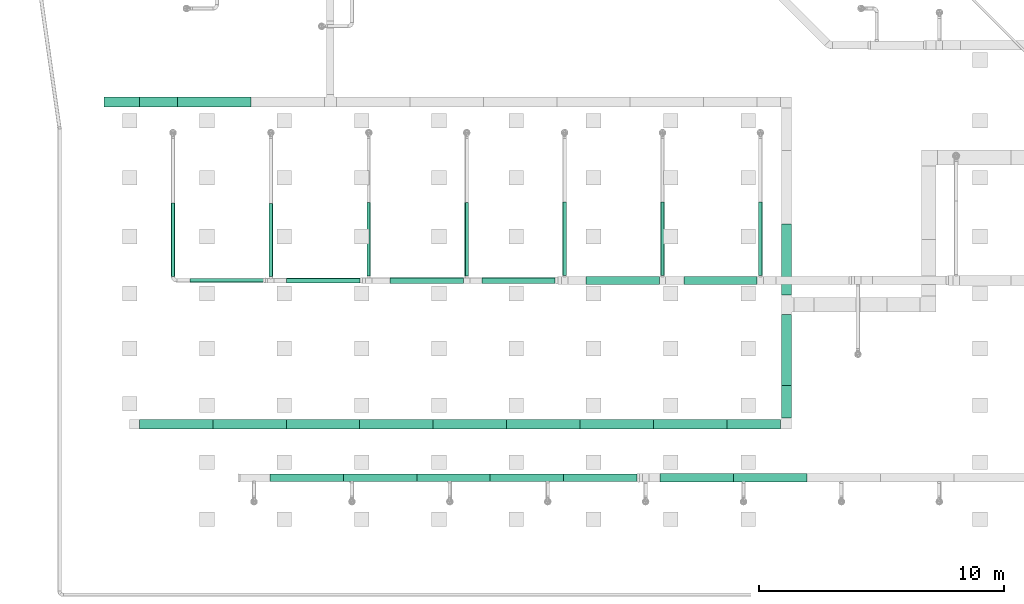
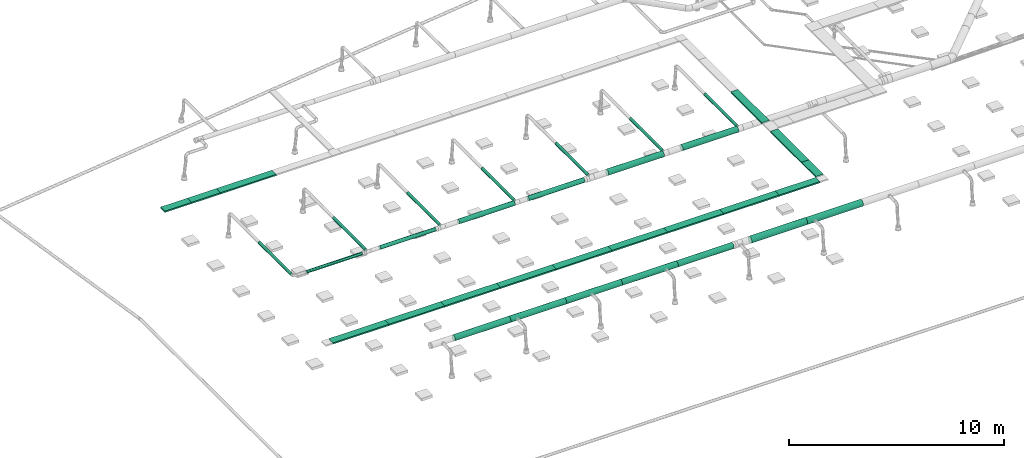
# One storey, part 2 of 374: 20 flow segments, 15 distribution elements.
"""IFC2X3 building model written with IfcOpenShell, lengths in metres."""

from ifc_helpers import new_model, si_unit, direction, frame, frame_2d, origin, place, context, subcontext, project, spatial, rectangle, extrude, open_shell, surface_model, source, transform, mapped, element, save


model = new_model("IFC2X3")

# Units and contexts
model_context = context("Model", 3, precision=1e-05, world=origin(), true_north=direction((-0.4480736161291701, 0.8939966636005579)))
body_context = subcontext(model_context, "Body", "Model", "MODEL_VIEW")
ifc_project = project(units=[si_unit("LENGTHUNIT", "METRE"), si_unit("AREAUNIT", "SQUARE_METRE"), si_unit("VOLUMEUNIT", "CUBIC_METRE"), si_unit("PLANEANGLEUNIT", "RADIAN"), si_unit("THERMODYNAMICTEMPERATUREUNIT", "KELVIN"), si_unit("MASSUNIT", "GRAM", prefix="KILO"), si_unit("TIMEUNIT", "SECOND")], contexts=[model_context])

# Site, building, storey
site_placement = place(None, origin())
site = spatial("IfcSite", under=ifc_project, at=site_placement, Name="Site 1", CompositionType="ELEMENT")
building_placement = place(site_placement, origin())
building = spatial("IfcBuilding", under=site, at=building_placement, Name="Undefined", CompositionType="ELEMENT")
storey_placement = place(building_placement, origin())
storey = spatial("IfcBuildingStorey", under=building, at=storey_placement, Name="Rez de chauss\x8ee", CompositionType="ELEMENT", Elevation=0.0)

# Flow segments
shared_shape_1 = source(origin(), body_context, "Body", "SurfaceModel", [
    surface_model("IfcFaceBasedSurfaceModel", [(0.0, 0.046336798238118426, 0.0), (0.0, 0.0, 0.0), (3.0, 0.0, 0.0), (3.0, 0.046336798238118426, 0.0), (0.0, -0.044757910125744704, -0.0119928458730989), (3.0, -0.044757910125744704, -0.0119928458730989), (0.0, -0.08488675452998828, -0.035161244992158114), (3.0, -0.08488675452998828, -0.035161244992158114), (0.0, -0.11765181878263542, -0.06792630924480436), (3.0, -0.11765181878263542, -0.06792630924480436), (0.0, -0.1408202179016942, -0.10805515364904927), (3.0, -0.1408202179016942, -0.10805515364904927), (0.0, -0.15281306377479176, -0.15281306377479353), (3.0, -0.15281306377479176, -0.15281306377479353), (0.0, -0.1528130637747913, -0.19914986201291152), (3.0, -0.1528130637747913, -0.19914986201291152), (0.0, -0.14082021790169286, -0.24390777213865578), (3.0, -0.14082021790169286, -0.24390777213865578), (0.0, -0.11765181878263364, -0.2840366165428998), (3.0, -0.11765181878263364, -0.2840366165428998), (0.0, -0.0848867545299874, -0.31680168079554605), (3.0, -0.0848867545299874, -0.31680168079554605), (0.0, -0.044757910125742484, -0.3399700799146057), (3.0, -0.044757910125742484, -0.3399700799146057), (0.0, 1.776356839e-15, -0.35196292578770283), (3.0, 1.776356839e-15, -0.35196292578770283), (0.0, 0.0463367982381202, -0.3519629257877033), (3.0, 0.0463367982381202, -0.3519629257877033), (0.0, 0.09109470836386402, -0.3399700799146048), (3.0, 0.09109470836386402, -0.3399700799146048), (0.0, 0.13122355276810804, -0.31680168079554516), (3.0, 0.13122355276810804, -0.31680168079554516), (0.0, 0.16398861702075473, -0.2840366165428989), (3.0, 0.16398861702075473, -0.2840366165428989), (0.0, 0.18715701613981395, -0.243907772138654), (3.0, 0.18715701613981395, -0.243907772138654), (0.0, 0.19914986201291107, -0.19914986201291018), (3.0, 0.19914986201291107, -0.19914986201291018), (0.0, 0.19914986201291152, -0.15281306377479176), (3.0, 0.19914986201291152, -0.15281306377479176), (0.0, 0.18715701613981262, -0.1080551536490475), (3.0, 0.18715701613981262, -0.1080551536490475), (0.0, 0.1639886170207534, -0.06792630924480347), (3.0, 0.1639886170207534, -0.06792630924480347), (0.0, 0.1312235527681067, -0.03516124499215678), (3.0, 0.1312235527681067, -0.03516124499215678), (0.0, 0.09109470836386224, -0.011992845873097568), (3.0, 0.09109470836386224, -0.011992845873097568)], [open_shell([[[0, 1, 2, 3]], [[1, 4, 5, 2]], [[4, 6, 7, 5]], [[6, 8, 9, 7]], [[8, 10, 11, 9]], [[10, 12, 13, 11]], [[12, 14, 15, 13]], [[14, 16, 17, 15]], [[16, 18, 19, 17]], [[18, 20, 21, 19]], [[20, 22, 23, 21]], [[22, 24, 25, 23]], [[24, 26, 27, 25]], [[26, 28, 29, 27]], [[28, 30, 31, 29]], [[30, 32, 33, 31]], [[32, 34, 35, 33]], [[34, 36, 37, 35]], [[36, 38, 39, 37]], [[38, 40, 41, 39]], [[40, 42, 43, 41]], [[42, 44, 45, 43]], [[44, 46, 47, 45]], [[46, 0, 3, 47]]])]),
])
flow_segment_1_placement = place(storey_placement, origin())
element("IfcFlowSegment", 1, at=flow_segment_1_placement, inside=storey, Name="Tube", ObjectType="Tube", context=body_context, shape_type="MappedRepresentation", body=[
    mapped(shared_shape_1, transform((28.88300102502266, 2.897238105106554, 3.9714518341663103), x_axis=(-1.0, 0.0, 0.0), y_axis=(7.266545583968e-12, -0.9914448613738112, 0.13052619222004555), z_axis=(0.0, 0.13052619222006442, 0.9914448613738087))),
])
flow_segment_2_placement = place(storey_placement, origin())
element("IfcFlowSegment", 2, at=flow_segment_2_placement, inside=storey, Name="Tube", ObjectType="Tube", context=body_context, shape_type="MappedRepresentation", body=[
    mapped(shared_shape_1, transform((25.88300102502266, 2.897238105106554, 3.9714518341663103), x_axis=(-1.0, 0.0, 0.0), y_axis=(7.266545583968e-12, -0.9914448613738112, 0.13052619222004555), z_axis=(0.0, 0.13052619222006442, 0.9914448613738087))),
])
shared_shape_2 = source(origin(), body_context, "Body", "SurfaceModel", [
    surface_model("IfcFaceBasedSurfaceModel", [(0.0, 0.04111575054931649, 0.0), (0.0, 0.0, 0.0), (3.0, 0.0, 0.0), (3.0, 0.04111575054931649, 0.0), (0.0, -0.03971476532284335, -0.010641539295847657), (3.0, -0.03971476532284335, -0.010641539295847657), (0.0, -0.0753220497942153, -0.0311994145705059), (3.0, -0.0753220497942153, -0.0311994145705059), (0.0, -0.10439527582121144, -0.060272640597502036), (3.0, -0.10439527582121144, -0.060272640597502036), (0.0, -0.12495315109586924, -0.09587992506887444), (3.0, -0.12495315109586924, -0.09587992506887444), (0.0, -0.13559469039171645, -0.13559469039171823), (3.0, -0.13559469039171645, -0.13559469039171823), (0.0, -0.135594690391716, -0.17671044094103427), (3.0, -0.135594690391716, -0.17671044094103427), (0.0, -0.1249531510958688, -0.21642520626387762), (3.0, -0.1249531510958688, -0.21642520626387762), (0.0, -0.10439527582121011, -0.2520324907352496), (3.0, -0.10439527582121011, -0.2520324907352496), (0.0, -0.07532204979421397, -0.2811057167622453), (3.0, -0.07532204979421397, -0.2811057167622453), (0.0, -0.039714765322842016, -0.3016635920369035), (3.0, -0.039714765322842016, -0.3016635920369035), (0.0, 1.776356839e-15, -0.3123051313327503), (3.0, 1.776356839e-15, -0.3123051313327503), (0.0, 0.041115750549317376, -0.31230513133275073), (3.0, 0.041115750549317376, -0.31230513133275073), (0.0, 0.08083051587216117, -0.30166359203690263), (3.0, 0.08083051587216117, -0.30166359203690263), (0.0, 0.11643780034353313, -0.28110571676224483), (3.0, 0.11643780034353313, -0.28110571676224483), (0.0, 0.14551102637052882, -0.25203249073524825), (3.0, 0.14551102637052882, -0.25203249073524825), (0.0, 0.16606890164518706, -0.2164252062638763), (3.0, 0.16606890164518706, -0.2164252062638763), (0.0, 0.17671044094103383, -0.1767104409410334), (3.0, 0.17671044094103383, -0.1767104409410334), (0.0, 0.17671044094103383, -0.1355946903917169), (3.0, 0.17671044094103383, -0.1355946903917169), (0.0, 0.16606890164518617, -0.09587992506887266), (3.0, 0.16606890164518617, -0.09587992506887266), (0.0, 0.14551102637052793, -0.06027264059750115), (3.0, 0.14551102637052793, -0.06027264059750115), (0.0, 0.1164378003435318, -0.031199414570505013), (3.0, 0.1164378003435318, -0.031199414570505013), (0.0, 0.08083051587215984, -0.010641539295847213), (3.0, 0.08083051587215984, -0.010641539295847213)], [open_shell([[[0, 1, 2, 3]], [[1, 4, 5, 2]], [[4, 6, 7, 5]], [[6, 8, 9, 7]], [[8, 10, 11, 9]], [[10, 12, 13, 11]], [[12, 14, 15, 13]], [[14, 16, 17, 15]], [[16, 18, 19, 17]], [[18, 20, 21, 19]], [[20, 22, 23, 21]], [[22, 24, 25, 23]], [[24, 26, 27, 25]], [[26, 28, 29, 27]], [[28, 30, 31, 29]], [[30, 32, 33, 31]], [[32, 34, 35, 33]], [[34, 36, 37, 35]], [[36, 38, 39, 37]], [[38, 40, 41, 39]], [[40, 42, 43, 41]], [[42, 44, 45, 43]], [[44, 46, 47, 45]], [[46, 0, 3, 47]]])]),
])
flow_segment_3_placement = place(storey_placement, origin())
element("IfcFlowSegment", 3, at=flow_segment_3_placement, inside=storey, Name="Tube", ObjectType="Tube", context=body_context, shape_type="MappedRepresentation", body=[
    mapped(shared_shape_2, transform((26.850053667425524, 10.95995797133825, 3.952133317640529), x_axis=(-1.0, 0.0, 0.0), y_axis=(7.266545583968e-12, -0.9914448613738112, 0.13052619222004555), z_axis=(0.0, 0.13052619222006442, 0.9914448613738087))),
])
flow_segment_4_placement = place(storey_placement, origin())
element("IfcFlowSegment", 4, at=flow_segment_4_placement, inside=storey, Name="Tube", ObjectType="Tube", context=body_context, shape_type="MappedRepresentation", body=[
    mapped(shared_shape_2, transform((22.85005357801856, 10.95995797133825, 3.952133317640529), x_axis=(-1.0, 0.0, 0.0), y_axis=(7.266545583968e-12, -0.9914448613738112, 0.13052619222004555), z_axis=(0.0, 0.13052619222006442, 0.9914448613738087))),
])
flow_segment_5_placement = place(storey_placement, origin())
element("IfcFlowSegment", 5, at=flow_segment_5_placement, inside=storey, Name="Tube", ObjectType="Tube", context=body_context, shape_type="MappedRepresentation", body=[
    mapped(shared_shape_2, transform((21.940000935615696, 2.892061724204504, 3.952133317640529), x_axis=(-1.0, 0.0, 0.0), y_axis=(7.266545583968e-12, -0.9914448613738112, 0.13052619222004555), z_axis=(0.0, 0.13052619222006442, 0.9914448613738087))),
])
flow_segment_6_placement = place(storey_placement, origin())
element("IfcFlowSegment", 6, at=flow_segment_6_placement, inside=storey, Name="Tube", ObjectType="Tube", context=body_context, shape_type="MappedRepresentation", body=[
    mapped(shared_shape_2, transform((18.940000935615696, 2.892061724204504, 3.952133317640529), x_axis=(-1.0, 0.0, 0.0), y_axis=(7.266545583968e-12, -0.9914448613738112, 0.13052619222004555), z_axis=(0.0, 0.13052619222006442, 0.9914448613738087))),
])
flow_segment_7_placement = place(storey_placement, origin())
element("IfcFlowSegment", 7, at=flow_segment_7_placement, inside=storey, Name="Tube", ObjectType="Tube", context=body_context, shape_type="MappedRepresentation", body=[
    mapped(shared_shape_2, transform((15.940000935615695, 2.892061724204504, 3.952133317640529), x_axis=(-1.0, 0.0, 0.0), y_axis=(7.266545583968e-12, -0.9914448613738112, 0.13052619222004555), z_axis=(0.0, 0.13052619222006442, 0.9914448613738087))),
])
flow_segment_8_placement = place(storey_placement, origin())
element("IfcFlowSegment", 8, at=flow_segment_8_placement, inside=storey, Name="Tube", ObjectType="Tube", context=body_context, shape_type="MappedRepresentation", body=[
    mapped(shared_shape_2, transform((12.940000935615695, 2.892061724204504, 3.952133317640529), x_axis=(-1.0, 0.0, 0.0), y_axis=(7.266545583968e-12, -0.9914448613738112, 0.13052619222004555), z_axis=(0.0, 0.13052619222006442, 0.9914448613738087))),
])
flow_segment_9_placement = place(storey_placement, origin())
element("IfcFlowSegment", 9, at=flow_segment_9_placement, inside=storey, Name="Tube", ObjectType="Tube", context=body_context, shape_type="MappedRepresentation", body=[
    mapped(shared_shape_2, transform((9.940000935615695, 2.892061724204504, 3.952133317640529), x_axis=(-1.0, 0.0, 0.0), y_axis=(7.266545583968e-12, -0.9914448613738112, 0.13052619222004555), z_axis=(0.0, 0.13052619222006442, 0.9914448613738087))),
])
shared_shape_3 = source(origin(), body_context, "Body", "SurfaceModel", [
    surface_model("IfcFaceBasedSurfaceModel", [(0.0, 0.02610523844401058, 0.0), (0.0, 0.0, 0.0), (3.0, 0.0, 0.0), (3.0, 0.026105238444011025, 0.0), (0.0, -0.025215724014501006, -0.006756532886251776), (3.0, -0.02521572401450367, -0.006756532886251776), (0.0, -0.04782352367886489, -0.019809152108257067), (3.0, -0.04782352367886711, -0.019809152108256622), (0.0, -0.066282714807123, -0.038268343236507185), (3.0, -0.06628271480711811, -0.03826834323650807), (0.0, -0.07933533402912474, -0.06087614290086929), (3.0, -0.0793353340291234, -0.060876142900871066), (0.0, -0.08609186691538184, -0.08609186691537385), (3.0, -0.08609186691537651, -0.08609186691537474), (0.0, -0.08609186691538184, -0.11219710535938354), (3.0, -0.08609186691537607, -0.11219710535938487), (0.0, -0.07933533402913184, -0.1374128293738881), (3.0, -0.0793353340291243, -0.137412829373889), (0.0, -0.066282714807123, -0.16002062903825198), (3.0, -0.06628271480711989, -0.16002062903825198), (0.0, -0.04782352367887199, -0.17847982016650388), (3.0, -0.04782352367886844, -0.17847982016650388), (0.0, -0.025215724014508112, -0.19153243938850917), (3.0, -0.025215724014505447, -0.19153243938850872), (0.0, -7.105427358e-15, -0.19828897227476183), (3.0, -8.8817842e-16, -0.1982889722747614), (0.0, 0.026105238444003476, -0.19828897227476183), (3.0, 0.026105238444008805, -0.19828897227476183), (0.0, 0.05132096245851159, -0.19153243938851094), (3.0, 0.051320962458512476, -0.1915324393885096), (0.0, 0.07392876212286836, -0.17847982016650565), (3.0, 0.07392876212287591, -0.17847982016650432), (0.0, 0.09238795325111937, -0.16002062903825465), (3.0, 0.09238795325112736, -0.16002062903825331), (0.0, 0.10544057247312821, -0.13741282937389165), (3.0, 0.1054405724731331, -0.13741282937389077), (0.0, 0.11219710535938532, -0.11219710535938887), (3.0, 0.11219710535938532, -0.11219710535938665), (0.0, 0.11219710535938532, -0.08609186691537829), (3.0, 0.1121971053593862, -0.08609186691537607), (0.0, 0.10544057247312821, -0.06087614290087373), (3.0, 0.10544057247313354, -0.0608761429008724), (0.0, 0.09238795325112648, -0.03826834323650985), (3.0, 0.0923879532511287, -0.038268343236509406), (0.0, 0.07392876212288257, -0.019809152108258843), (3.0, 0.07392876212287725, -0.01980915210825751), (0.0, 0.05132096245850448, -0.006756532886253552), (3.0, 0.05132096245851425, -0.006756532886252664)], [open_shell([[[0, 1, 2, 3]], [[1, 4, 5, 2]], [[4, 6, 7, 5]], [[6, 8, 9, 7]], [[8, 10, 11, 9]], [[10, 12, 13, 11]], [[12, 14, 15, 13]], [[14, 16, 17, 15]], [[16, 18, 19, 17]], [[18, 20, 21, 19]], [[20, 22, 23, 21]], [[22, 24, 25, 23]], [[24, 26, 27, 25]], [[26, 28, 29, 27]], [[28, 30, 31, 29]], [[30, 32, 33, 31]], [[32, 34, 35, 33]], [[34, 36, 37, 35]], [[36, 38, 39, 37]], [[38, 40, 41, 39]], [[40, 42, 43, 41]], [[42, 44, 45, 43]], [[44, 46, 47, 45]], [[46, 0, 3, 47]]])]),
])
flow_segment_10_placement = place(storey_placement, origin())
element("IfcFlowSegment", 10, at=flow_segment_10_placement, inside=storey, Name="Tube", ObjectType="Tube", context=body_context, shape_type="MappedRepresentation", body=[
    mapped(shared_shape_3, transform((10.616053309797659, 10.945075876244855, 3.8965925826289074), x_axis=(-1.0, 0.0, 0.0), y_axis=(7.266545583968e-12, -0.9914448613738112, 0.13052619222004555), z_axis=(0.0, 0.13052619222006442, 0.9914448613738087))),
])
shared_shape_4 = source(origin(), body_context, "Body", "SurfaceModel", [
    surface_model("IfcFaceBasedSurfaceModel", [(0.0, 0.020884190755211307, 0.0), (0.0, 0.0, 0.0), (3.0, 0.0, 0.0), (3.0, 0.020884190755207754, -4.4408921e-16), (0.0, -0.020172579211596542, -0.005405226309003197), (3.0, -0.020172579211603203, -0.005405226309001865), (0.0, -0.03825881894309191, -0.015847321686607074), (3.0, -0.03825881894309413, -0.015847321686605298), (0.0, -0.05302617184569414, -0.0306146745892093), (3.0, -0.053026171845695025, -0.030614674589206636), (0.0, -0.06346826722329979, -0.04870091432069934), (3.0, -0.06346826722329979, -0.04870091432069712), (0.0, -0.06887349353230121, -0.06887349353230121), (3.0, -0.0688734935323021, -0.06887349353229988), (0.0, -0.06887349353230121, -0.08975768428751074), (3.0, -0.0688734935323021, -0.08975768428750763), (0.0, -0.06346826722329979, -0.10993026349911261), (3.0, -0.06346826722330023, -0.10993026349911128), (0.0, -0.05302617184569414, -0.12801650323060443), (3.0, -0.0530261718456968, -0.12801650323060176), (0.0, -0.038258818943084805, -0.14278385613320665), (3.0, -0.03825881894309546, -0.1427838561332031), (0.0, -0.020172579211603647, -0.15322595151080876), (3.0, -0.020172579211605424, -0.15322595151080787), (0.0, 7.105427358e-15, -0.15863117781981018), (3.0, -2.664535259e-15, -0.15863117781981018), (0.0, 0.020884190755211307, -0.15863117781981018), (3.0, 0.020884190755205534, -0.15863117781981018), (0.0, 0.04105676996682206, -0.15322595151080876), (3.0, 0.04105676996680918, -0.1532259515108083), (0.0, 0.05914300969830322, -0.1427838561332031), (3.0, 0.059143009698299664, -0.14278385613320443), (0.0, 0.07391036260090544, -0.12801650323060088), (3.0, 0.073910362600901, -0.12801650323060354), (0.0, 0.0843524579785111, -0.10993026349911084), (3.0, 0.08435245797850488, -0.10993026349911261), (0.0, 0.08975768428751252, -0.08975768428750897), (3.0, 0.08975768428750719, -0.08975768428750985), (0.0, 0.08975768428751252, -0.06887349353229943), (3.0, 0.08975768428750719, -0.0688734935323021), (0.0, 0.0843524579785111, -0.048700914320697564), (3.0, 0.08435245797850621, -0.048700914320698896), (0.0, 0.07391036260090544, -0.030614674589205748), (3.0, 0.07391036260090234, -0.03061467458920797), (0.0, 0.05914300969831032, -0.015847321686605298), (3.0, 0.05914300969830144, -0.015847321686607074), (0.0, 0.04105676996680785, -0.005405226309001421), (3.0, 0.041056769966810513, -0.005405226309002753)], [open_shell([[[0, 1, 2, 3]], [[1, 4, 5, 2]], [[4, 6, 7, 5]], [[6, 8, 9, 7]], [[8, 10, 11, 9]], [[10, 12, 13, 11]], [[12, 14, 15, 13]], [[14, 16, 17, 15]], [[16, 18, 19, 17]], [[18, 20, 21, 19]], [[20, 22, 23, 21]], [[22, 24, 25, 23]], [[24, 26, 27, 25]], [[26, 28, 29, 27]], [[28, 30, 31, 29]], [[30, 32, 33, 31]], [[32, 34, 35, 33]], [[34, 36, 37, 35]], [[36, 38, 39, 37]], [[38, 40, 41, 39]], [[40, 42, 43, 41]], [[42, 44, 45, 43]], [[44, 46, 47, 45]], [[46, 0, 3, 47]]])]),
])
flow_segment_11_placement = place(storey_placement, origin())
element("IfcFlowSegment", 11, at=flow_segment_11_placement, inside=storey, Name="Tube", ObjectType="Tube", context=body_context, shape_type="MappedRepresentation", body=[
    mapped(shared_shape_4, transform((27.000759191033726, 11.129193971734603, 3.877274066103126), x_axis=(0.0, 1.0, 0.0), y_axis=(-0.9914448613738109, 0.0, 0.1305261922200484), z_axis=(0.1305261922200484, 0.0, 0.9914448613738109))),
])
flow_segment_12_placement = place(storey_placement, origin())
element("IfcFlowSegment", 12, at=flow_segment_12_placement, inside=storey, Name="Tube", ObjectType="Tube", context=body_context, shape_type="MappedRepresentation", body=[
    mapped(shared_shape_4, transform((23.000759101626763, 11.129193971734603, 3.877274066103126), x_axis=(0.0, 1.0, 0.0), y_axis=(-0.9914448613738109, 0.0, 0.1305261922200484), z_axis=(0.1305261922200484, 0.0, 0.9914448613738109))),
])
flow_segment_13_placement = place(storey_placement, origin())
element("IfcFlowSegment", 13, at=flow_segment_13_placement, inside=storey, Name="Tube", ObjectType="Tube", context=body_context, shape_type="MappedRepresentation", body=[
    mapped(shared_shape_4, transform((15.000758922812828, 11.094193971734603, 3.877274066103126), x_axis=(0.0, 1.0, 0.0), y_axis=(-0.9914448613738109, 0.0, 0.1305261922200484), z_axis=(0.1305261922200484, 0.0, 0.9914448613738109))),
])
flow_segment_14_placement = place(storey_placement, origin())
element("IfcFlowSegment", 14, at=flow_segment_14_placement, inside=storey, Name="Tube", ObjectType="Tube", context=body_context, shape_type="MappedRepresentation", body=[
    mapped(shared_shape_4, transform((7.000758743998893, 11.069193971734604, 3.877274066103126), x_axis=(0.0, 1.0, 0.0), y_axis=(-0.9914448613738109, 0.0, 0.1305261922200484), z_axis=(0.1305261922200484, 0.0, 0.9914448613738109))),
])
flow_segment_15_placement = place(storey_placement, origin())
element("IfcFlowSegment", 15, at=flow_segment_15_placement, inside=storey, Name="Tube", ObjectType="Tube", context=body_context, shape_type="MappedRepresentation", body=[
    mapped(shared_shape_4, transform((6.670053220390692, 10.939899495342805, 3.877274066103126), x_axis=(-1.0, 0.0, 0.0), y_axis=(7.266545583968e-12, -0.9914448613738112, 0.13052619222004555), z_axis=(0.0, 0.13052619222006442, 0.9914448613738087))),
])
flow_segment_16_placement = place(storey_placement, origin())
element("IfcFlowSegment", 16, at=flow_segment_16_placement, inside=storey, Name="Tube", ObjectType="Tube", context=body_context, shape_type="MappedRepresentation", body=[
    mapped(shared_shape_4, transform((3.000758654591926, 11.079193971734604, 3.877274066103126), x_axis=(0.0, 1.0, 0.0), y_axis=(-0.9914448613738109, 0.0, 0.1305261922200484), z_axis=(0.1305261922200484, 0.0, 0.9914448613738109))),
])
flow_segment_17_placement = place(storey_placement, origin())
element("IfcFlowSegment", 17, at=flow_segment_17_placement, inside=storey, Name="Tube", ObjectType="Tube", context=body_context, shape_type="MappedRepresentation", body=[
    mapped(shared_shape_4, transform((11.000758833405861, 11.094193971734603, 3.877274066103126), x_axis=(0.0, 1.0, 0.0), y_axis=(-0.9914448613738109, 0.0, 0.1305261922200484), z_axis=(0.1305261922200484, 0.0, 0.9914448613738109))),
])
flow_segment_18_placement = place(storey_placement, origin())
element("IfcFlowSegment", 18, at=flow_segment_18_placement, inside=storey, Name="Tube", ObjectType="Tube", context=body_context, shape_type="MappedRepresentation", body=[
    mapped(shared_shape_4, transform((19.000759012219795, 11.129193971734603, 3.877274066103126), x_axis=(0.0, 1.0, 0.0), y_axis=(-0.9914448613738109, 0.0, 0.1305261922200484), z_axis=(0.1305261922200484, 0.0, 0.9914448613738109))),
])
shared_shape_5 = source(origin(), body_context, "Body", "SurfaceModel", [
    surface_model("IfcFaceBasedSurfaceModel", [(0.0, 0.03263154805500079, 0.0), (0.0, 0.0, 0.0), (3.0, 0.0, 0.0), (3.0, 0.03263154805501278, -4.4408921e-16), (0.0, -0.031519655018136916, -0.008445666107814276), (3.0, -0.03151965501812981, -0.008445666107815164), (0.0, -0.05977940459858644, -0.024761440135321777), (3.0, -0.05977940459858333, -0.02476144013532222), (0.0, -0.08285339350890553, -0.047835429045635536), (3.0, -0.08285339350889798, -0.04783542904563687), (0.0, -0.09916916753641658, -0.07609517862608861), (3.0, -0.09916916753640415, -0.07609517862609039), (0.0, -0.1076148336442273, -0.10761483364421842), (3.0, -0.10761483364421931, -0.10761483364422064), (0.0, -0.1076148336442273, -0.14024638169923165), (3.0, -0.10761483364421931, -0.14024638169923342), (0.0, -0.09916916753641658, -0.17176603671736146), (3.0, -0.09916916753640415, -0.17176603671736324), (0.0, -0.08285339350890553, -0.2000257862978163), (3.0, -0.08285339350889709, -0.20002578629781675), (0.0, -0.059779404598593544, -0.22309977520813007), (3.0, -0.059779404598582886, -0.22309977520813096), (0.0, -0.03151965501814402, -0.23941554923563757), (3.0, -0.03151965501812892, -0.23941554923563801), (0.0, -1.4210854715e-14, -0.24786121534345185), (3.0, 8.8817842e-16, -0.24786121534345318), (0.0, 0.03263154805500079, -0.24786121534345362), (3.0, 0.032631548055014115, -0.24786121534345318), (0.0, 0.0641512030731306, -0.23941554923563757), (3.0, 0.06415120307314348, -0.23941554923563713), (0.0, 0.09241095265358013, -0.22309977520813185), (3.0, 0.092410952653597, -0.22309977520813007), (0.0, 0.11548494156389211, -0.2000257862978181), (3.0, 0.11548494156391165, -0.20002578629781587), (0.0, 0.13180071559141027, -0.171766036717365), (3.0, 0.13180071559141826, -0.1717660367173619), (0.0, 0.140246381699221, -0.1402463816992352), (3.0, 0.14024638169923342, -0.14024638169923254), (0.0, 0.140246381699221, -0.10761483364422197), (3.0, 0.14024638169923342, -0.10761483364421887), (0.0, 0.13180071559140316, -0.07609517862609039), (3.0, 0.13180071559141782, -0.07609517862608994), (0.0, 0.11548494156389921, -0.04783542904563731), (3.0, 0.11548494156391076, -0.047835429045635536), (0.0, 0.09241095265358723, -0.024761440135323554), (3.0, 0.09241095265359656, -0.024761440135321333), (0.0, 0.06415120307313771, -0.008445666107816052), (3.0, 0.06415120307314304, -0.008445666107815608)], [open_shell([[[0, 1, 2, 3]], [[1, 4, 5, 2]], [[4, 6, 7, 5]], [[6, 8, 9, 7]], [[8, 10, 11, 9]], [[10, 12, 13, 11]], [[12, 14, 15, 13]], [[14, 16, 17, 15]], [[16, 18, 19, 17]], [[18, 20, 21, 19]], [[20, 22, 23, 21]], [[22, 24, 25, 23]], [[24, 26, 27, 25]], [[26, 28, 29, 27]], [[28, 30, 31, 29]], [[30, 32, 33, 31]], [[32, 34, 35, 33]], [[34, 36, 37, 35]], [[36, 38, 39, 37]], [[38, 40, 41, 39]], [[40, 42, 43, 41]], [[42, 44, 45, 43]], [[44, 46, 47, 45]], [[46, 0, 3, 47]]])]),
])
flow_segment_19_placement = place(storey_placement, origin())
element("IfcFlowSegment", 19, at=flow_segment_19_placement, inside=storey, Name="Tube", ObjectType="Tube", context=body_context, shape_type="MappedRepresentation", body=[
    mapped(shared_shape_5, transform((18.59605348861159, 10.951546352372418, 3.920740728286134), x_axis=(-1.0, 0.0, 0.0), y_axis=(7.266545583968e-12, -0.9914448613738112, 0.13052619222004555), z_axis=(0.0, 0.13052619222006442, 0.9914448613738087))),
])
flow_segment_20_placement = place(storey_placement, origin())
element("IfcFlowSegment", 20, at=flow_segment_20_placement, inside=storey, Name="Tube", ObjectType="Tube", context=body_context, shape_type="MappedRepresentation", body=[
    mapped(shared_shape_5, transform((14.850053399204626, 10.951546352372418, 3.920740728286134), x_axis=(-1.0, 0.0, 0.0), y_axis=(7.266545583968e-12, -0.9914448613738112, 0.13052619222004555), z_axis=(0.0, 0.13052619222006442, 0.9914448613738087))),
])

# Distribution elements
shared_shape_6 = source(origin(), body_context, "Body", "SurfaceModel", [
    surface_model("IfcFaceBasedSurfaceModel", [(0.0, 0.0, 0.0), (2.1830278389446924, 0.0, 0.0), (2.1830278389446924, 0.08000000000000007, 0.0), (0.0, 0.08000000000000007, 0.0), (2.1830278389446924, 0.0, -0.40000000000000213), (0.0, 0.0, -0.3999999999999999), (0.0, 0.08000000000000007, -0.3999999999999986), (2.1830278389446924, 0.08000000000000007, -0.40000000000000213)], [open_shell([[[0, 1, 2, 3]], [[4, 5, 6, 7]], [[6, 3, 2]], [[6, 2, 7]], [[1, 0, 5]], [[4, 1, 5]]])]),
])
distribution_element_1_placement = place(storey_placement, origin())
element("IfcDistributionElement", 21, at=distribution_element_1_placement, inside=storey, Name="Chemin(s) de câbles", ObjectType="Chemin(s) de câbles", context=body_context, shape_type="MappedRepresentation", body=[
    mapped(shared_shape_6, transform((27.79402783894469, 4.839, 4.18), x_axis=(-1.0, 0.0, 0.0), y_axis=(0.0, 0.0, -1.0), z_axis=(0.0, -1.0, 0.0))),
])
distribution_element_2_placement = place(storey_placement, origin())
element("IfcDistributionElement", 22, at=distribution_element_2_placement, inside=storey, Name="Chemin(s) de câbles", ObjectType="Chemin(s) de câbles", context=body_context, shape_type="SweptSolid", body=[
    extrude(rectangle(XDim=0.4, YDim=0.08, at=frame_2d((3.552713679e-15, 0.0), x_axis=(-1.0, 0.0))), frame((1.6109999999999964, 18.211000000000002, 4.14), z_axis=(-1.0, 0.0, 0.0), x_axis=(0.0, -1.0, 0.0)), (0.0, 0.0, 1.0), 1.4443648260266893),
])
distribution_element_3_placement = place(storey_placement, origin())
element("IfcDistributionElement", 23, at=distribution_element_3_placement, inside=storey, Name="Chemin(s) de câbles", ObjectType="Chemin(s) de câbles", context=body_context, shape_type="SweptSolid", body=[
    extrude(rectangle(XDim=0.4, YDim=0.08, at=frame_2d((3.552713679e-15, 0.0), x_axis=(-1.0, 0.0))), frame((25.610999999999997, 5.039, 4.14), z_axis=(-1.0, 0.0, 0.0), x_axis=(0.0, -1.0, 0.0)), (0.0, 0.0, 1.0), 3.0),
])
distribution_element_4_placement = place(storey_placement, origin())
element("IfcDistributionElement", 24, at=distribution_element_4_placement, inside=storey, Name="Chemin(s) de câbles", ObjectType="Chemin(s) de câbles", context=body_context, shape_type="SweptSolid", body=[
    extrude(rectangle(XDim=0.4, YDim=0.08, at=frame_2d((3.552713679e-15, 0.0), x_axis=(-1.0, 0.0))), frame((22.610999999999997, 5.039, 4.14), z_axis=(-1.0, 0.0, 0.0), x_axis=(0.0, -1.0, 0.0)), (0.0, 0.0, 1.0), 3.0),
])
distribution_element_5_placement = place(storey_placement, origin())
element("IfcDistributionElement", 25, at=distribution_element_5_placement, inside=storey, Name="Chemin(s) de câbles", ObjectType="Chemin(s) de câbles", context=body_context, shape_type="SweptSolid", body=[
    extrude(rectangle(XDim=0.4, YDim=0.08, at=frame_2d((3.552713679e-15, 0.0), x_axis=(-1.0, 0.0))), frame((19.610999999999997, 5.039, 4.14), z_axis=(-1.0, 0.0, 0.0), x_axis=(0.0, -1.0, 0.0)), (0.0, 0.0, 1.0), 3.0),
])
distribution_element_6_placement = place(storey_placement, origin())
element("IfcDistributionElement", 26, at=distribution_element_6_placement, inside=storey, Name="Chemin(s) de câbles", ObjectType="Chemin(s) de câbles", context=body_context, shape_type="SweptSolid", body=[
    extrude(rectangle(XDim=0.4, YDim=0.08, at=frame_2d((3.552713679e-15, 0.0), x_axis=(-1.0, 0.0))), frame((16.610999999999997, 5.039, 4.14), z_axis=(-1.0, 0.0, 0.0), x_axis=(0.0, -1.0, 0.0)), (0.0, 0.0, 1.0), 3.0),
])
distribution_element_7_placement = place(storey_placement, origin())
element("IfcDistributionElement", 27, at=distribution_element_7_placement, inside=storey, Name="Chemin(s) de câbles", ObjectType="Chemin(s) de câbles", context=body_context, shape_type="SweptSolid", body=[
    extrude(rectangle(XDim=0.4, YDim=0.08, at=frame_2d((3.552713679e-15, 0.0), x_axis=(-1.0, 0.0))), frame((13.610999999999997, 5.039, 4.14), z_axis=(-1.0, 0.0, 0.0), x_axis=(0.0, -1.0, 0.0)), (0.0, 0.0, 1.0), 3.0),
])
distribution_element_8_placement = place(storey_placement, origin())
element("IfcDistributionElement", 28, at=distribution_element_8_placement, inside=storey, Name="Chemin(s) de câbles", ObjectType="Chemin(s) de câbles", context=body_context, shape_type="SweptSolid", body=[
    extrude(rectangle(XDim=0.4, YDim=0.08, at=frame_2d((3.552713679e-15, 0.0), x_axis=(-1.0, 0.0))), frame((10.610999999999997, 5.039, 4.14), z_axis=(-1.0, 0.0, 0.0), x_axis=(0.0, -1.0, 0.0)), (0.0, 0.0, 1.0), 3.0),
])
distribution_element_9_placement = place(storey_placement, origin())
element("IfcDistributionElement", 29, at=distribution_element_9_placement, inside=storey, Name="Chemin(s) de câbles", ObjectType="Chemin(s) de câbles", context=body_context, shape_type="SweptSolid", body=[
    extrude(rectangle(XDim=0.4, YDim=0.08, at=frame_2d((3.552713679e-15, 0.0), x_axis=(-1.0, 0.0))), frame((7.610999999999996, 5.039, 4.14), z_axis=(-1.0, 0.0, 0.0), x_axis=(0.0, -1.0, 0.0)), (0.0, 0.0, 1.0), 3.0),
])
distribution_element_10_placement = place(storey_placement, origin())
element("IfcDistributionElement", 30, at=distribution_element_10_placement, inside=storey, Name="Chemin(s) de câbles", ObjectType="Chemin(s) de câbles", context=body_context, shape_type="SweptSolid", body=[
    extrude(rectangle(XDim=0.4, YDim=0.08, at=frame_2d((3.552713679e-15, 0.0), x_axis=(-1.0, 0.0))), frame((4.610999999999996, 5.039, 4.14), z_axis=(-1.0, 0.0, 0.0), x_axis=(0.0, -1.0, 0.0)), (0.0, 0.0, 1.0), 3.0),
])
distribution_element_11_placement = place(storey_placement, origin())
element("IfcDistributionElement", 31, at=distribution_element_11_placement, inside=storey, Name="Chemin(s) de câbles", ObjectType="Chemin(s) de câbles", context=body_context, shape_type="SweptSolid", body=[
    extrude(rectangle(XDim=0.4, YDim=0.08, at=frame_2d((3.552713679e-15, 0.0), x_axis=(-1.0, 0.0))), frame((6.160999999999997, 18.211000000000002, 4.14), z_axis=(-1.0, 0.0, 0.0), x_axis=(0.0, -1.0, 0.0)), (0.0, 0.0, 1.0), 3.0),
])
distribution_element_12_placement = place(storey_placement, origin())
element("IfcDistributionElement", 32, at=distribution_element_12_placement, inside=storey, Name="Chemin(s) de câbles", ObjectType="Chemin(s) de câbles", context=body_context, shape_type="SweptSolid", body=[
    extrude(rectangle(XDim=0.4, YDim=0.08, at=frame_2d((3.552713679e-15, 0.0), x_axis=(-1.0, 0.0))), frame((3.1609999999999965, 18.211000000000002, 4.14), z_axis=(-1.0, 0.0, 0.0), x_axis=(0.0, -1.0, 0.0)), (0.0, 0.0, 1.0), 1.55),
])
distribution_element_13_placement = place(storey_placement, origin())
element("IfcDistributionElement", 33, at=distribution_element_13_placement, inside=storey, Name="Chemin(s) de câbles", ObjectType="Chemin(s) de câbles", context=body_context, shape_type="SweptSolid", body=[
    extrude(rectangle(XDim=0.4, YDim=0.08, at=frame_2d((3.552713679e-15, 0.0), x_axis=(-1.0, 0.0))), frame((28.04402783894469, 6.626369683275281, 4.14), z_axis=(0.0, -1.0, 0.0), x_axis=(1.0, 0.0, 0.0)), (0.0, 0.0, 1.0), 1.3373696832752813),
])
distribution_element_14_placement = place(storey_placement, origin())
element("IfcDistributionElement", 34, at=distribution_element_14_placement, inside=storey, Name="Chemin(s) de câbles", ObjectType="Chemin(s) de câbles", context=body_context, shape_type="SweptSolid", body=[
    extrude(rectangle(XDim=0.4, YDim=0.08, at=frame_2d((3.552713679e-15, 0.0), x_axis=(-1.0, 0.0))), frame((28.04402783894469, 6.626369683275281, 4.14), z_axis=(0.0, 1.0, 0.0), x_axis=(-1.0, 0.0, 0.0)), (0.0, 0.0, 1.0), 2.9),
])
distribution_element_15_placement = place(storey_placement, origin())
element("IfcDistributionElement", 35, at=distribution_element_15_placement, inside=storey, Name="Chemin(s) de câbles", ObjectType="Chemin(s) de câbles", context=body_context, shape_type="SweptSolid", body=[
    extrude(rectangle(XDim=0.4, YDim=0.08, at=frame_2d((3.552713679e-15, 0.0), x_axis=(-1.0, 0.0))), frame((28.04402783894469, 10.326369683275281, 4.14), z_axis=(0.0, 1.0, 0.0), x_axis=(-1.0, 0.0, 0.0)), (0.0, 0.0, 1.0), 2.9),
])

save(model, "model.ifc")
